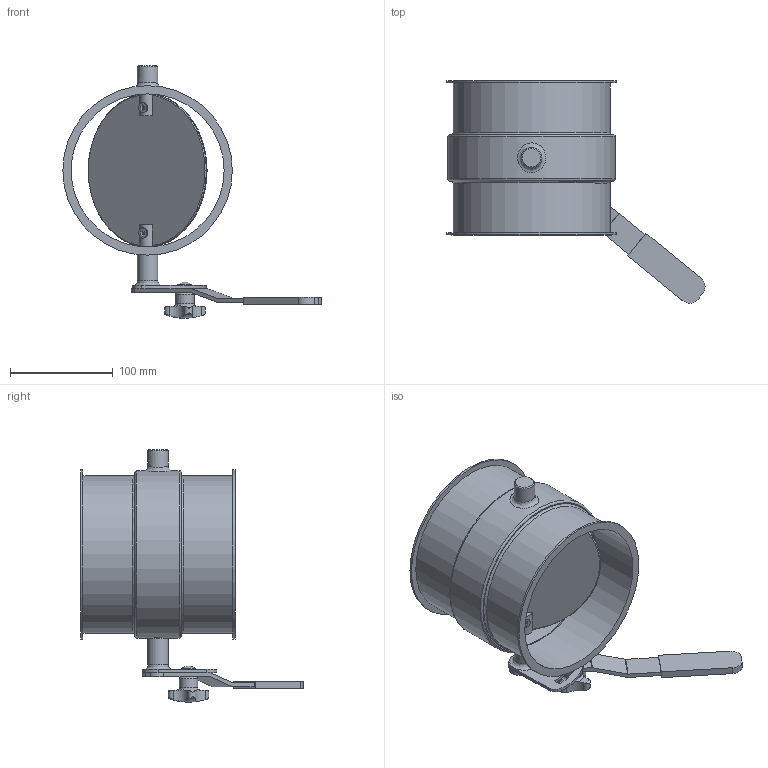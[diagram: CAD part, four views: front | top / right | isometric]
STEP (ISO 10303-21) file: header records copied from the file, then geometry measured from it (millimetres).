
FILE_DESCRIPTION((''),'2;1');
FILE_NAME('U:\Wolfgang\Marcel-3D\fertig\Kapitel 8\1521076.stp','2011-05-03T15:03:22',('TK1'),(''),'Autodesk Inventor 2010','Autodesk Inventor 2010','');
FILE_SCHEMA(('AUTOMOTIVE_DESIGN { 1 0 10303 214 1 1 1 1 }'));
Length unit declared in the file: millimetre
Products named in the file (9): 1521076; Bolzen D15; ganter_din_6335-ku-40-m8-k; Griff D15; Umstellsegment D15; Scheibe150b; DIN 6912 M6 x 16; DIN 603 M5 x 25; 1521076-1
Assembly tree (9 placements, depth 2):
  1521076
    Bolzen D15
    ganter_din_6335-ku-40-m8-k
    Griff D15
    Umstellsegment D15
    Scheibe150b
    DIN 6912 M6 x 16  x2
    DIN 603 M5 x 25
    1521076-1
Bounding box: 251.43 x 216.28 x 246 mm (x, y, z)
Volume: 375040.9 mm3; surface area: 275675.8 mm2
Topology: 9 solids, 9 shells, 182 faces, 429 edges, 280 vertices
Faces by surface type: plane 77, cylinder 62, cone 16, torus 13, bspline 12, sphere 2
Full cylindrical faces by diameter (mm): 3 x2, 5 x1, 6 x6, 6.4 x1, 7 x1, 10 x4, 13 x1, 13.55 x1, 15 x8, 18 x1, 20 x3, 149 x3, 150 x1, 153 x2, 158 x1, 159 x1, 163 x1, 165 x2
Entity records: 5982 total; most frequent: CARTESIAN_POINT 2189, DIRECTION 746, ORIENTED_EDGE 632, AXIS2_PLACEMENT_3D 320, EDGE_CURVE 316, EDGE_LOOP 269, VERTEX_POINT 241, FACE_OUTER_BOUND 167
